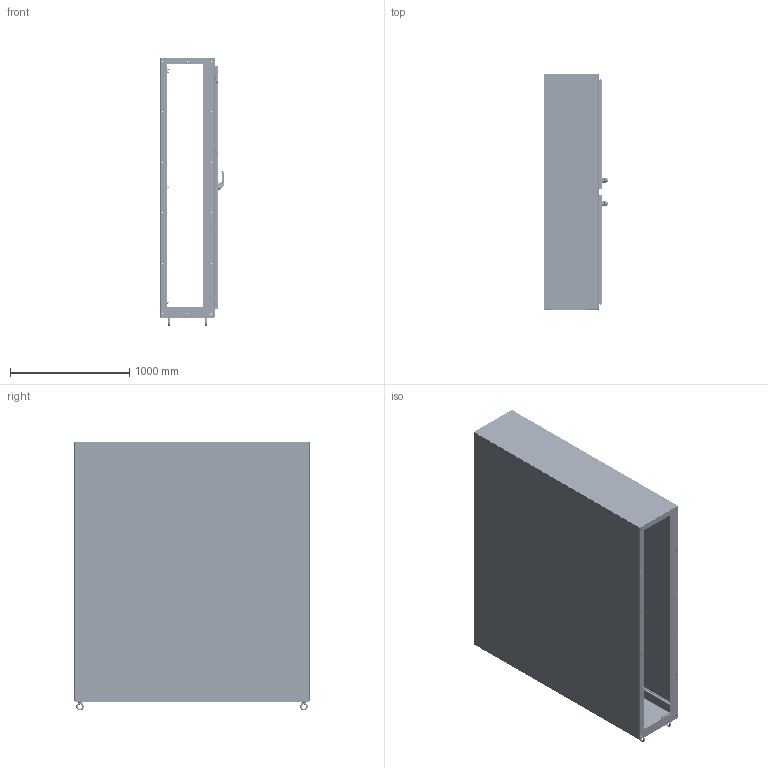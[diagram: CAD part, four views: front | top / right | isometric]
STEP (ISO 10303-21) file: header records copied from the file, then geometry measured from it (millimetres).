
FILE_DESCRIPTION((''),'2;1');
FILE_NAME('MODEL-462_ASM','2024-06-26T07:09:49',('joshi'),('SAGINAW CONTROL & ENGINEERING'),'CREO PARAMETRIC BY PTC INC, 2021284','CREO PARAMETRIC BY PTC INC, 2021284','');
FILE_SCHEMA(('AUTOMOTIVE_DESIGN { 1 0 10303 214 1 1 1 1 }'));
Length unit declared in the file: inch
Products named in the file (97): MODEL-462-L-SD; MODEL-462-TP; MODEL-462-R-SD; MODEL-462-BTM; MODEL-462-RH-DR; 100837; 100957_SCREW_MTG; 100957_PADLOCK_CATCH; 100957_SCREW_LARGE; 100957_INSERT_SHAFT; 100957_INSERT_PH; 100957_GASKET; 100957_O-RING; 100957_BASE; 100957_SPRING; 100957_HANDLE; 100957_CAM_SHAFT; 100957_HANDLE_ASM; 100957_CAM_ADAPTER; 100957_EARTH_NUT; 100957_FLANGE_NUT; 100957_CAM_NUT; 100957_ASM; 102236; 100030; 102236_ASM; MODEL-462-ROD-RH-UPR; 128146; 128145; 128144; 102482; MODEL-462-ROD-RH-UPR_ASM; 128143; 100882; 112504; MODEL-462-ROD-RH-LWR; MODEL-462-ROD-RH-LWR_ASM; MODEL-462-PR-GSKT-RH; 128258; 128258_ASM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
Assembly tree (240 placements, depth 5):
  MODEL-462_ASM
    MODEL-462-L-SD
    MODEL-462-TP
    MODEL-462-R-SD
    MODEL-462-BTM
    MODEL-462-RH-DOOR-ASSY_ASM
      MODEL-462-RH-DR
      100837  x3
      100957_ASM
        100957_SCREW_MTG
        100957_PADLOCK_CATCH
        100957_SCREW_LARGE  x2
        100957_INSERT_SHAFT
        100957_INSERT_PH
        100957_GASKET
        100957_O-RING
        100957_BASE
        100957_SPRING
        100957_HANDLE_ASM
          100957_HANDLE
          100957_CAM_SHAFT
        100957_CAM_ADAPTER
        100957_EARTH_NUT
        100957_FLANGE_NUT
        100957_CAM_NUT
      102236_ASM
        102236
        100030  x2
      MODEL-462-ROD-RH-UPR_ASM
        MODEL-462-ROD-RH-UPR
        128146
        128145
        128144
        102482  x2
      128143  x2
      100882  x10
      112504  x2
      MODEL-462-ROD-RH-LWR_ASM
        MODEL-462-ROD-RH-LWR
        128146
        128145
        128144
        102482  x2
      MODEL-462-PR-GSKT-RH
      128258_ASM  x4
        128258
      126395  x4
      102483  x4
      101383_ASM  x4
        101383
        101383-STUD
      101221  x4
    MODEL-462-LH-DOOR-ASSY_ASM
      MODEL-462-LH-DR
      100837  x3
      100957_ASM
        100957_SCREW_MTG
        100957_PADLOCK_CATCH
        100957_SCREW_LARGE  x2
        100957_INSERT_SHAFT
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Bounding box: 535.27 x 1974.85 x 2259.2 mm (x, y, z)
Volume: 48391075.2 mm3; surface area: 34575845.5 mm2
Topology: 283 solids, 283 shells, 26858 faces, 68136 edges, 41891 vertices
Faces by surface type: plane 9233, cylinder 7289, bspline 5721, torus 2143, cone 1289, sphere 802, extrusion 381
Entity records: 607079 total; most frequent: CARTESIAN_POINT 279122, ORIENTED_EDGE 49720, DIRECTION 45918, PRESENTATION_STYLE_ASSIGNMENT 25745, STYLED_ITEM 25717, CURVE_STYLE 24860, EDGE_CURVE 24860, AXIS2_PLACEMENT_3D 16881
